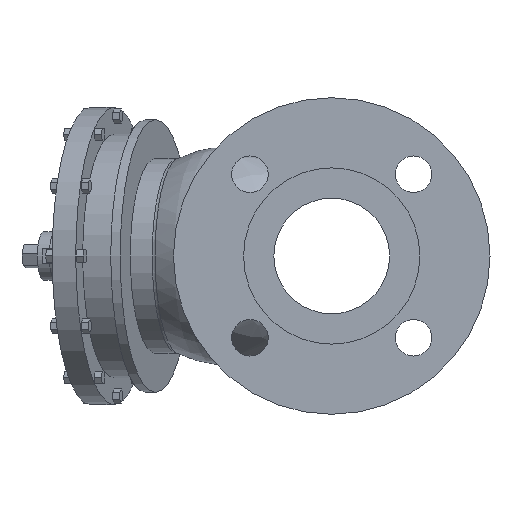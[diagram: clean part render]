
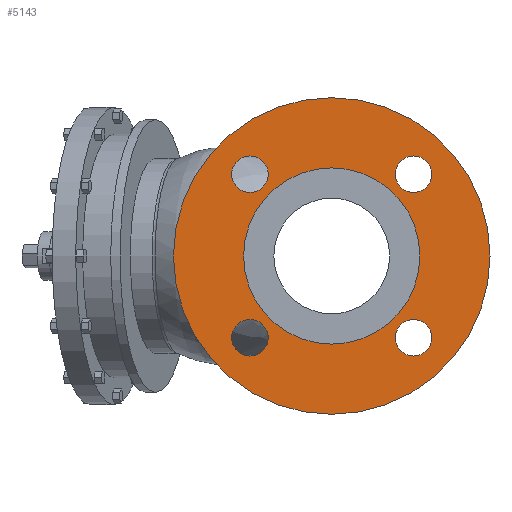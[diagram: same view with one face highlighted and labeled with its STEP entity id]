
A CAD part, left-side view. The second image highlights one B-rep face of the part: STEP entity #5143.
In plain terms, the highlighted planar face has unit normal (-1, 0, 0).
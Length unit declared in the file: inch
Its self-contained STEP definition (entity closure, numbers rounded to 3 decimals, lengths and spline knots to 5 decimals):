
#260=PLANE('',#5501);
#531=FACE_OUTER_BOUND('',#996,.T.);
#539=CIRCLE('',#5173,0.375);
#541=CIRCLE('',#5176,0.375);
#543=CIRCLE('',#5179,0.375);
#545=CIRCLE('',#5182,0.375);
#623=CIRCLE('',#5499,1.81);
#624=CIRCLE('',#5500,1.81);
#625=CIRCLE('',#5502,3.25);
#626=CIRCLE('',#5503,3.25);
#680=FACE_BOUND('',#997,.T.);
#681=FACE_BOUND('',#998,.T.);
#682=FACE_BOUND('',#999,.T.);
#683=FACE_BOUND('',#1000,.T.);
#684=FACE_BOUND('',#1001,.T.);
#996=EDGE_LOOP('',(#4543,#4544));
#997=EDGE_LOOP('',(#4545));
#998=EDGE_LOOP('',(#4546));
#999=EDGE_LOOP('',(#4547));
#1000=EDGE_LOOP('',(#4548));
#1001=EDGE_LOOP('',(#4549,#4550));
#2129=VERTEX_POINT('',#6810);
#2131=VERTEX_POINT('',#6816);
#2133=VERTEX_POINT('',#6822);
#2135=VERTEX_POINT('',#6828);
#2570=VERTEX_POINT('',#9281);
#2571=VERTEX_POINT('',#9282);
#2572=VERTEX_POINT('',#9287);
#2573=VERTEX_POINT('',#9288);
#2586=EDGE_CURVE('',#2129,#2129,#539,.T.);
#2589=EDGE_CURVE('',#2131,#2131,#541,.T.);
#2592=EDGE_CURVE('',#2133,#2133,#543,.T.);
#2595=EDGE_CURVE('',#2135,#2135,#545,.T.);
#3237=EDGE_CURVE('',#2570,#2571,#623,.T.);
#3238=EDGE_CURVE('',#2571,#2570,#624,.T.);
#3240=EDGE_CURVE('',#2572,#2573,#625,.T.);
#3241=EDGE_CURVE('',#2573,#2572,#626,.T.);
#4543=ORIENTED_EDGE('',*,*,#3240,.F.);
#4544=ORIENTED_EDGE('',*,*,#3241,.F.);
#4545=ORIENTED_EDGE('',*,*,#2586,.T.);
#4546=ORIENTED_EDGE('',*,*,#2589,.T.);
#4547=ORIENTED_EDGE('',*,*,#2592,.T.);
#4548=ORIENTED_EDGE('',*,*,#2595,.T.);
#4549=ORIENTED_EDGE('',*,*,#3237,.T.);
#4550=ORIENTED_EDGE('',*,*,#3238,.T.);
#5143=ADVANCED_FACE('',(#531,#680,#681,#682,#683,#684),#260,.T.);
#5173=AXIS2_PLACEMENT_3D('',#6811,#5541,#5542);
#5176=AXIS2_PLACEMENT_3D('',#6817,#5548,#5549);
#5179=AXIS2_PLACEMENT_3D('',#6823,#5555,#5556);
#5182=AXIS2_PLACEMENT_3D('',#6829,#5562,#5563);
#5499=AXIS2_PLACEMENT_3D('',#9283,#6720,#6721);
#5500=AXIS2_PLACEMENT_3D('',#9284,#6722,#6723);
#5501=AXIS2_PLACEMENT_3D('',#9286,#6725,#6726);
#5502=AXIS2_PLACEMENT_3D('',#9289,#6727,#6728);
#5503=AXIS2_PLACEMENT_3D('',#9290,#6729,#6730);
#5541=DIRECTION('center_axis',(1.,0.,0.));
#5542=DIRECTION('ref_axis',(0.,1.,0.));
#5548=DIRECTION('center_axis',(1.,0.,0.));
#5549=DIRECTION('ref_axis',(0.,0.,-1.));
#5555=DIRECTION('center_axis',(1.,0.,0.));
#5556=DIRECTION('ref_axis',(0.,-1.,0.));
#5562=DIRECTION('center_axis',(1.,0.,0.));
#5563=DIRECTION('ref_axis',(0.,0.,1.));
#6720=DIRECTION('center_axis',(1.,0.,0.));
#6721=DIRECTION('ref_axis',(0.,0.,-1.));
#6722=DIRECTION('center_axis',(1.,0.,0.));
#6723=DIRECTION('ref_axis',(0.,0.,-1.));
#6725=DIRECTION('center_axis',(-1.,0.,0.));
#6726=DIRECTION('ref_axis',(0.,0.,1.));
#6727=DIRECTION('center_axis',(1.,0.,0.));
#6728=DIRECTION('ref_axis',(0.,0.,-1.));
#6729=DIRECTION('center_axis',(1.,0.,0.));
#6730=DIRECTION('ref_axis',(0.,0.,-1.));
#6810=CARTESIAN_POINT('',(-3.975,-2.05438,-1.67938));
#6811=CARTESIAN_POINT('Origin',(-3.975,-1.67938,-1.67938));
#6816=CARTESIAN_POINT('',(-3.975,-1.67938,2.05438));
#6817=CARTESIAN_POINT('Origin',(-3.975,-1.67938,1.67938));
#6822=CARTESIAN_POINT('',(-3.975,2.05438,1.67938));
#6823=CARTESIAN_POINT('Origin',(-3.975,1.67938,1.67938));
#6828=CARTESIAN_POINT('',(-3.975,1.67938,-2.05438));
#6829=CARTESIAN_POINT('Origin',(-3.975,1.67938,-1.67938));
#9281=CARTESIAN_POINT('',(-3.975,1.81,0.));
#9282=CARTESIAN_POINT('',(-3.975,-1.81,0.));
#9283=CARTESIAN_POINT('Origin',(-3.975,0.,0.));
#9284=CARTESIAN_POINT('Origin',(-3.975,0.,0.));
#9286=CARTESIAN_POINT('Origin',(-3.975,3.25,0.));
#9287=CARTESIAN_POINT('',(-3.975,3.25,0.));
#9288=CARTESIAN_POINT('',(-3.975,-3.25,0.));
#9289=CARTESIAN_POINT('Origin',(-3.975,0.,0.));
#9290=CARTESIAN_POINT('Origin',(-3.975,0.,0.));
